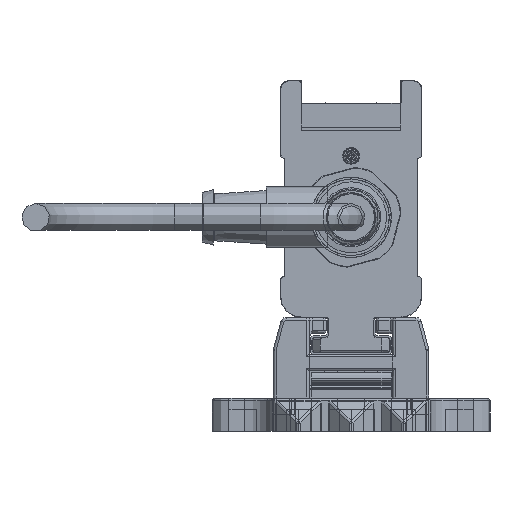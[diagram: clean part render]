
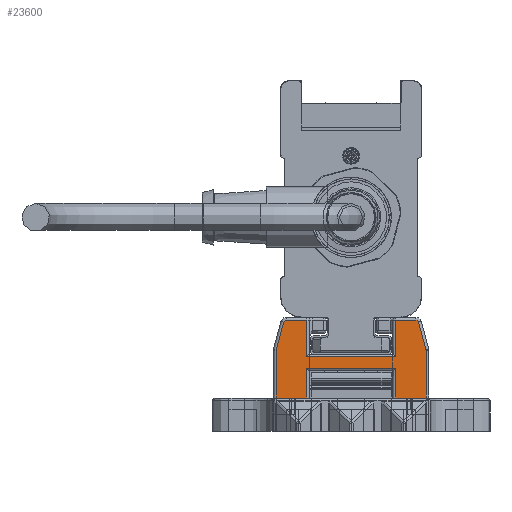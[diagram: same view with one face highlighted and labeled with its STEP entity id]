
A CAD part, left-side view. The second image highlights one B-rep face of the part: STEP entity #23600.
In plain terms, the highlighted planar face has unit normal (-1, 0, 0).
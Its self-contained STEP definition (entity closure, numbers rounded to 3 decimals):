
#23600=ADVANCED_FACE('', (#23610), #23620, .T.);
#189050=AXIS2_PLACEMENT_3D('Ax2Pl3d', #189060, #189070, #189080);
#189290=AXIS2_PLACEMENT_3D('Ax2Pl3d', #189300, #189310, #189320);
#194170=AXIS2_PLACEMENT_3D('Ax2Pl3d', #194180, #194190, #194200);
#199250=AXIS2_PLACEMENT_3D('Ax2Pl3d', #199260, #199270, #199280);
#208930=AXIS2_PLACEMENT_3D('Ax2Pl3d', #208940, #208950, #208960);
#844600=CARTESIAN_POINT('', (-747.669,-5926.345,
331.37));
#189060=CARTESIAN_POINT('HicPkt', (-747.669,-5925.379,
331.111));
#844610=CARTESIAN_POINT('', (-747.669,-5926.379,331.111)
);
#844620=CARTESIAN_POINT('', (-747.669,-5925.037,
336.255));
#844640=CARTESIAN_POINT('', (-747.669,-5925.037,
336.255));
#844670=CARTESIAN_POINT('', (-747.669,-5924.554,
336.625));
#189300=CARTESIAN_POINT('HicPkt', (-747.669,-5924.554,
336.125));
#844890=CARTESIAN_POINT('', (-747.669,-5926.379,322.625)
);
#844900=CARTESIAN_POINT('', (-747.669,-5920.881,322.625)
);
#844910=CARTESIAN_POINT('', (-747.669,-5920.881,322.625)
);
#844990=CARTESIAN_POINT('', (-747.669,-5904.881,322.625)
);
#845000=CARTESIAN_POINT('', (-747.669,-5899.383,322.625)
);
#845010=CARTESIAN_POINT('', (-747.669,-5899.383,322.625)
);
#194180=CARTESIAN_POINT('HicPkt', (-747.669,-5901.209,
336.125));
#847480=CARTESIAN_POINT('', (-747.669,-5900.726,
336.255));
#847490=CARTESIAN_POINT('', (-747.669,-5901.209,
336.625));
#847500=CARTESIAN_POINT('', (-747.669,-5920.881,
330.025));
#847510=CARTESIAN_POINT('', (-747.669,-5904.881,
330.025));
#847520=CARTESIAN_POINT('', (-747.669,-5920.881,
330.025));
#847680=CARTESIAN_POINT('', (-747.669,-5920.881,
328.005));
#847690=CARTESIAN_POINT('', (-747.669,-5904.881,
328.005));
#847700=CARTESIAN_POINT('', (-747.669,-5904.881,
328.005));
#847710=CARTESIAN_POINT('', (-747.669,-5920.881,
328.005));
#847730=CARTESIAN_POINT('', (-747.669,-5904.881,322.625)
);
#847740=CARTESIAN_POINT('', (-747.669,-5904.881,
330.025));
#847750=CARTESIAN_POINT('', (-747.669,-5904.881,
336.625));
#848600=CARTESIAN_POINT('', (-747.669,-5904.881,
336.625));
#848610=CARTESIAN_POINT('', (-747.669,-5900.726,
336.255));
#848620=CARTESIAN_POINT('', (-747.669,-5899.417,
331.37));
#848810=CARTESIAN_POINT('', (-747.669,-5899.383,331.111)
);
#848820=CARTESIAN_POINT('', (-747.669,-5899.383,331.111)
);
#199260=CARTESIAN_POINT('HicPkt', (-747.669,-5900.383,
331.111));
#849630=CARTESIAN_POINT('', (-747.669,-5926.379,331.111)
);
#208940=CARTESIAN_POINT('HicPkt', (-747.669,-5924.554,
336.625));
#851430=CARTESIAN_POINT('', (-747.669,-5920.881,
336.625));
#851440=CARTESIAN_POINT('', (-747.669,-5920.881,
336.625));
#851450=CARTESIAN_POINT('', (-747.669,-5920.881,
336.625));
#981330=CIRCLE('Circle', #189050, 1.);
#981370=CIRCLE('Circle', #189290, 0.5);
#981950=CIRCLE('Circle', #194170, 0.5);
#982480=CIRCLE('Circle', #199250, 1.);
#189070=DIRECTION('Axis', (-1.,0.,
0.));
#189080=DIRECTION('RefDirection', (0.,
0.,-1.));
#1367870=DIRECTION('', (0.,0.259,
0.966));
#189310=DIRECTION('Axis', (-1.,0.,
0.));
#189320=DIRECTION('RefDirection', (0.,
0.,-1.));
#1367980=DIRECTION('', (0.,1.,0.));
#1368020=DIRECTION('', (0.,1.,0.));
#194190=DIRECTION('Axis', (1.,0.,
0.));
#194200=DIRECTION('RefDirection', (0.,
0.,-1.));
#1369210=DIRECTION('', (0.,-1.,0.));
#1369310=DIRECTION('', (0.,1.,0.));
#1369320=DIRECTION('', (0.,0.,1.));
#1369340=DIRECTION('', (0.,0.,-1.));
#1369350=DIRECTION('', (0.,0.,-1.));
#1369780=DIRECTION('', (0.,-1.,0.))
;
#1369790=DIRECTION('', (0.,-0.259,0.966));
#1369880=DIRECTION('', (0.,0.,1.));
#199270=DIRECTION('Axis', (1.,0.,
0.));
#199280=DIRECTION('RefDirection', (0.,
0.,-1.));
#1370250=DIRECTION('', (0.,0.,1.));
#208950=DIRECTION('Axis', (-1.,0.,
0.));
#208960=DIRECTION('RefDirection', (0.,
0.,-1.));
#1371090=DIRECTION('', (0.,1.,0.));
#1371100=DIRECTION('', (0.,0.,1.));
#1456860=EDGE_CURVE('', #1456870, #1456850, #981330, .T.);
#1456920=EDGE_CURVE('', #1456850, #1456900, #1456930, .T.);
#1456990=EDGE_CURVE('', #1456900, #1456980, #981370, .T.);
#1457440=EDGE_CURVE('', #1457430, #1457450, #1457460, .T.);
#1457600=EDGE_CURVE('', #1457590, #1457610, #1457620, .T.);
#1461960=EDGE_CURVE('', #1461970, #1461980, #981950, .T.);
#1462010=EDGE_CURVE('', #1462020, #1462030, #1462040, .T.);
#1462380=EDGE_CURVE('', #1462360, #1462390, #1462400, .T.);
#1462430=EDGE_CURVE('', #1457450, #1462360, #1462440, .T.);
#1462470=EDGE_CURVE('', #1462390, #1457590, #1462480, .T.);
#1462490=EDGE_CURVE('', #1462500, #1462020, #1462510, .T.);
#1464330=EDGE_CURVE('', #1461980, #1462500, #1464340, .T.);
#1464400=EDGE_CURVE('', #1464410, #1461970, #1464420, .T.);
#1464840=EDGE_CURVE('', #1457610, #1464850, #1464860, .T.);
#1464880=EDGE_CURVE('', #1464850, #1464410, #982480, .T.);
#1466590=EDGE_CURVE('', #1457430, #1456870, #1466600, .T.);
#1470400=EDGE_CURVE('', #1456980, #1470410, #1470420, .T.);
#1470430=EDGE_CURVE('', #1462030, #1470410, #1470440, .T.);
#1750440=EDGE_LOOP('Edge_loop', (#1750450,#1750460,#1750470,#1750480,
#1750490,#1750500,#1750510,#1750520,#1750530,#1750540,#1750550,
#1750560,#1750570,#1750580,#1750590,#1750600,#1750610,#1750620));
#23610=FACE_OUTER_BOUND('Face_outer_bound', #1750440, .T.);
#1456930=LINE('Line', #844640, #2017940);
#1457460=LINE('Line', #844900, #2018050);
#1457620=LINE('Line', #845000, #2018090);
#1462040=LINE('Line', #847500, #2019280);
#1462400=LINE('Line', #847690, #2019380);
#1462440=LINE('Line', #847710, #2019390);
#1462480=LINE('Line', #847730, #2019410);
#1462510=LINE('Line', #847740, #2019420);
#1464340=LINE('Line', #848600, #2019850);
#1464420=LINE('Line', #848610, #2019860);
#1464860=LINE('Line', #848810, #2019950);
#1466600=LINE('Line', #849630, #2020320);
#1470420=LINE('Line', #851430, #2021160);
#1470440=LINE('Line', #851450, #2021170);
#1750450=ORIENTED_EDGE('', *, *, #1470400, .T.);
#1750460=ORIENTED_EDGE('', *, *, #1470430, .F.);
#1750470=ORIENTED_EDGE('', *, *, #1462010, .F.);
#1750480=ORIENTED_EDGE('', *, *, #1462490, .F.);
#1750490=ORIENTED_EDGE('', *, *, #1464330, .F.);
#1750500=ORIENTED_EDGE('', *, *, #1461960, .F.);
#1750510=ORIENTED_EDGE('', *, *, #1464400, .F.);
#1750520=ORIENTED_EDGE('', *, *, #1464880, .F.);
#1750530=ORIENTED_EDGE('', *, *, #1464840, .F.);
#1750540=ORIENTED_EDGE('', *, *, #1457600, .F.);
#1750550=ORIENTED_EDGE('', *, *, #1462470, .F.);
#1750560=ORIENTED_EDGE('', *, *, #1462380, .F.);
#1750570=ORIENTED_EDGE('', *, *, #1462430, .F.);
#1750580=ORIENTED_EDGE('', *, *, #1457440, .F.);
#1750590=ORIENTED_EDGE('', *, *, #1466590, .T.);
#1750600=ORIENTED_EDGE('', *, *, #1456860, .T.);
#1750610=ORIENTED_EDGE('', *, *, #1456920, .T.);
#1750620=ORIENTED_EDGE('', *, *, #1456990, .T.);
#23620=PLANE('Plane', #208930);
#2017940=VECTOR('', #1367870, 5.057);
#2018050=VECTOR('', #1367980, 5.498);
#2018090=VECTOR('', #1368020, 5.498);
#2019280=VECTOR('', #1369210, 16.);
#2019380=VECTOR('', #1369310, 16.);
#2019390=VECTOR('', #1369320, 5.38);
#2019410=VECTOR('', #1369340, 5.38);
#2019420=VECTOR('', #1369350, 6.6);
#2019850=VECTOR('', #1369780, 3.672);
#2019860=VECTOR('', #1369790, 5.057);
#2019950=VECTOR('', #1369880, 8.486);
#2020320=VECTOR('', #1370250, 8.486);
#2021160=VECTOR('', #1371090, 3.672);
#2021170=VECTOR('', #1371100, 6.6);
#1456850=VERTEX_POINT('', #844600);
#1456870=VERTEX_POINT('', #844610);
#1456900=VERTEX_POINT('', #844620);
#1456980=VERTEX_POINT('', #844670);
#1457430=VERTEX_POINT('', #844890);
#1457450=VERTEX_POINT('', #844910);
#1457590=VERTEX_POINT('', #844990);
#1457610=VERTEX_POINT('', #845010);
#1461970=VERTEX_POINT('', #847480);
#1461980=VERTEX_POINT('', #847490);
#1462020=VERTEX_POINT('', #847510);
#1462030=VERTEX_POINT('', #847520);
#1462360=VERTEX_POINT('', #847680);
#1462390=VERTEX_POINT('', #847700);
#1462500=VERTEX_POINT('', #847750);
#1464410=VERTEX_POINT('', #848620);
#1464850=VERTEX_POINT('', #848820);
#1470410=VERTEX_POINT('', #851440);
